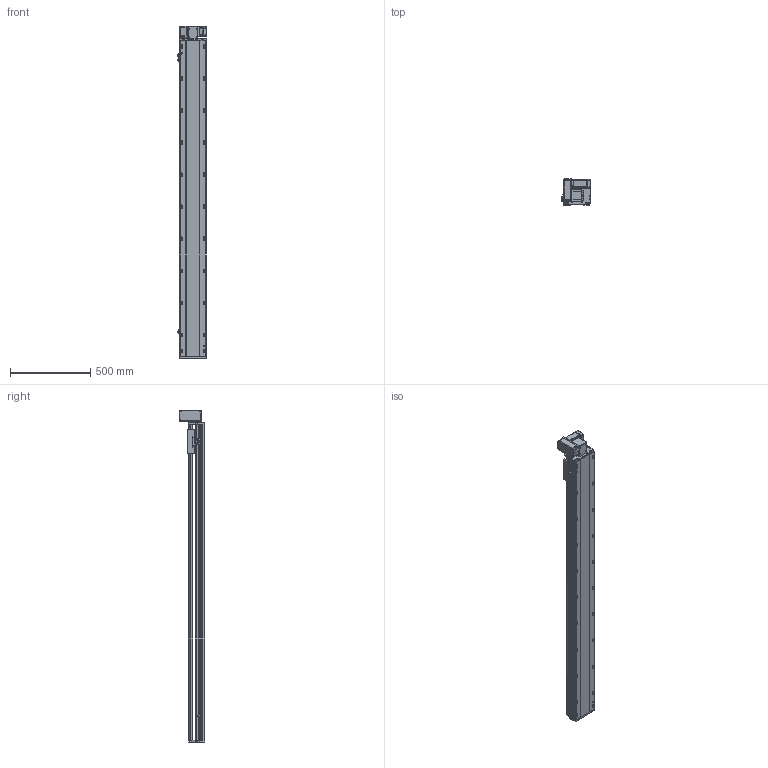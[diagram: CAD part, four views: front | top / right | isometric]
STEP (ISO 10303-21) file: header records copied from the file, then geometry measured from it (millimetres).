
FILE_DESCRIPTION (( 'STEP AP214' ), '1' );
FILE_NAME ('RTB17S-XX-1700-LW-M40-C4.STEP', '2025-12-11T07:10:37', ( '' ), ( '' ), 'SwSTEP 2.0', 'SolidWorks 2018', '' );
FILE_SCHEMA (( 'AUTOMOTIVE_DESIGN' ));
Length unit declared in the file: millimetre
Products named in the file (14): RTB14-L-017P^RTB17S-LW-々湍釱蚾饜-400W_RTB17S-XX-XX-LW-M40-C4; RTB17S-XX-1700-LW-M40-C4; RTB14-L-018P^RTB17S-LW-々湍釱蚾饜-400W_RTB17S-XX-XX-LW-M40-C4; OMRON EE-SX672 传感器^RTB17S-XX-XX-LW-M40-C4; RTB17S-L-004佪裝蹟譫蟀諉釱^RTB17S-XX-XX-LW-M40-C4; RTB14-L-005P--轴承塑胶压盖^RTB17S-LW-皮带座装配-400W_RTB17S-XX-XX-LW-M40-C4; RTB17S-L-007奻裔^RTB17S-XX-XX-LW-M40-C4; RTB14-L-008-M20--萇儂啣^RTB17S-LW-々湍釱蚾饜-400W_RTB17S-XX-XX-LW-M40-C4; RTH13-BL-012覜茼え俋离^RTB17S-XX-XX-LW-M40-C4; 400W侜督萇儂^RTB17S-XX-XX-LW-M40-C4; RTB17-R-011菁釱^RTB17S-XX-XX-LW-M40-C4; RTB17S-L-014-T20--々湍釱^RTB17S-LW-々湍釱蚾饜-400W_RTB17S-XX-XX-LW-M40-C4; RTB17S-LW-々湍釱蚾饜-400W^RTB17S-XX-XX-LW-M40-C4; RTB17S-L-001耜醱啣^RTB17S-XX-XX-LW-M40-C4
Assembly tree (16 placements, depth 3):
  RTB17S-XX-1700-LW-M40-C4
    RTB17-R-011菁釱^RTB17S-XX-XX-LW-M40-C4
    RTB17S-L-007奻裔^RTB17S-XX-XX-LW-M40-C4
    OMRON EE-SX672 传感器^RTB17S-XX-XX-LW-M40-C4  x3
    RTB17S-L-001耜醱啣^RTB17S-XX-XX-LW-M40-C4
    400W侜督萇儂^RTB17S-XX-XX-LW-M40-C4
    RTB17S-L-004佪裝蹟譫蟀諉釱^RTB17S-XX-XX-LW-M40-C4
    RTH13-BL-012覜茼え俋离^RTB17S-XX-XX-LW-M40-C4
    RTB17S-LW-々湍釱蚾饜-400W^RTB17S-XX-XX-LW-M40-C4
      RTB17S-L-014-T20--々湍釱^RTB17S-LW-々湍釱蚾饜-400W_RTB17S-XX-XX-LW-M40-C4
      RTB14-L-005P--轴承塑胶压盖^RTB17S-LW-皮带座装配-400W_RTB17S-XX-XX-LW-M40-C4
      RTB14-L-008-M20--萇儂啣^RTB17S-LW-々湍釱蚾饜-400W_RTB17S-XX-XX-LW-M40-C4
      RTB14-L-017P^RTB17S-LW-々湍釱蚾饜-400W_RTB17S-XX-XX-LW-M40-C4  x2
      RTB14-L-018P^RTB17S-LW-々湍釱蚾饜-400W_RTB17S-XX-XX-LW-M40-C4
Bounding box: 186 x 160.5 x 2072.5 mm (x, y, z)
Volume: 18080178.4 mm3; surface area: 2121468.1 mm2
Topology: 15 solids, 15 shells, 2269 faces, 6303 edges, 4113 vertices
Faces by surface type: plane 1076, cylinder 745, bspline 301, cone 139, torus 8
Entity records: 65705 total; most frequent: CARTESIAN_POINT 18508, ORIENTED_EDGE 9450, DIRECTION 8756, EDGE_CURVE 4725, VERTEX_POINT 3101, AXIS2_PLACEMENT_3D 3031, LINE 2694, VECTOR 2694
